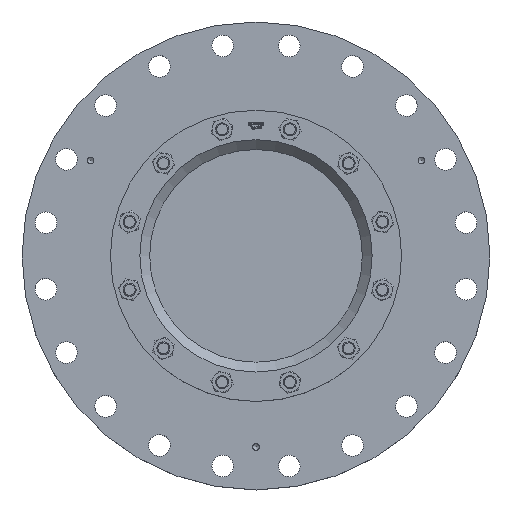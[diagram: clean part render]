
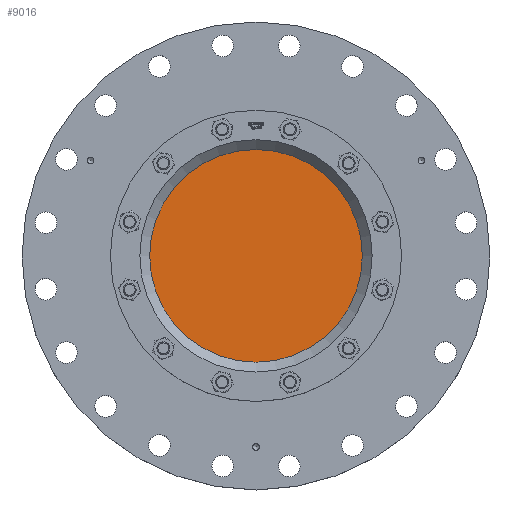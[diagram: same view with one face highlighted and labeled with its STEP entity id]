
A CAD part, top view. The second image highlights one B-rep face of the part: STEP entity #9016.
In plain terms, the highlighted planar face has unit normal (0, 0, 1).
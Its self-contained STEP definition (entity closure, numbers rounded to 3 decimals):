
#2039=FACE_OUTER_BOUND('',#2608,.T.);
#2608=EDGE_LOOP('',(#5706));
#3333=CIRCLE('',#9589,162.5);
#3591=VERTEX_POINT('',#12223);
#4431=EDGE_CURVE('',#3591,#3591,#3333,.T.);
#5706=ORIENTED_EDGE('',*,*,#4431,.F.);
#8236=PLANE('',#9588);
#9016=ADVANCED_FACE('',(#2039),#8236,.F.);
#9588=AXIS2_PLACEMENT_3D('',#12222,#10311,#10312);
#9589=AXIS2_PLACEMENT_3D('',#12224,#10313,#10314);
#10311=DIRECTION('center_axis',(0.,0.,-1.));
#10312=DIRECTION('ref_axis',(-1.,0.,0.));
#10313=DIRECTION('center_axis',(0.,0.,-1.));
#10314=DIRECTION('ref_axis',(-1.,0.,0.));
#12222=CARTESIAN_POINT('Origin',(0.,0.,152.));
#12223=CARTESIAN_POINT('',(162.5,0.,152.));
#12224=CARTESIAN_POINT('Origin',(0.,0.,152.));
